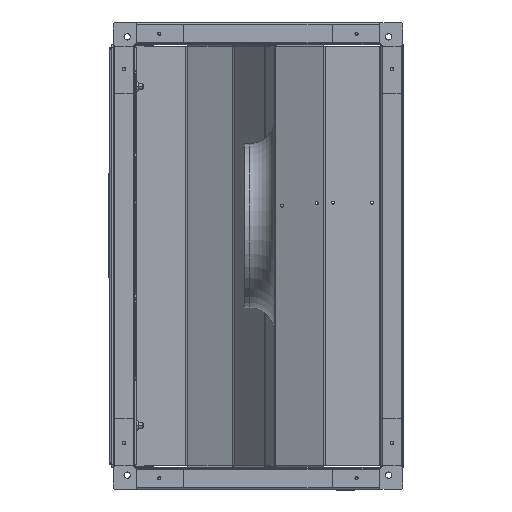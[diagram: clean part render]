
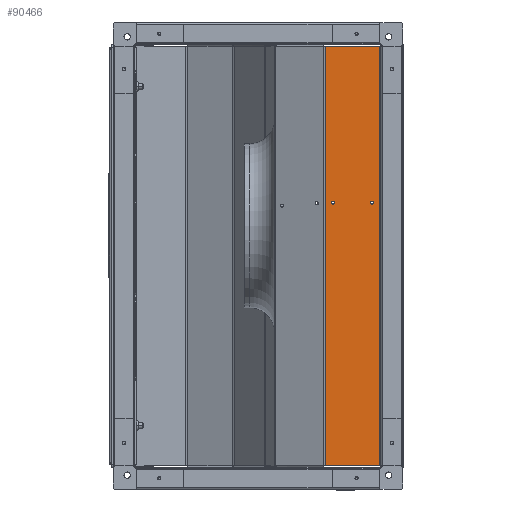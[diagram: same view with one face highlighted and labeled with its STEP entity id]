
A CAD part, left-side view. The second image highlights one B-rep face of the part: STEP entity #90466.
In plain terms, the highlighted planar face has unit normal (-1, 0, 0).
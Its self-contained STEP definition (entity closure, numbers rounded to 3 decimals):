
#2240 = CIRCLE ( 'NONE', #56960, 2.1 ) ;
#12062 = EDGE_CURVE ( 'NONE', #16818, #16738, #101062, .T. ) ;
#12212 = EDGE_CURVE ( 'NONE', #17197, #16452, #101178, .T. ) ;
#12289 = EDGE_CURVE ( 'NONE', #65517, #15921, #101350, .T. ) ;
#12806 = EDGE_CURVE ( 'NONE', #15921, #65517, #102269, .T. ) ;
#12812 = EDGE_CURVE ( 'NONE', #16452, #16800, #102316, .T. ) ;
#15921 = VERTEX_POINT ( 'NONE', #51687 ) ;
#16452 = VERTEX_POINT ( 'NONE', #51323 ) ;
#16738 = VERTEX_POINT ( 'NONE', #112870 ) ;
#16800 = VERTEX_POINT ( 'NONE', #112763 ) ;
#16818 = VERTEX_POINT ( 'NONE', #112728 ) ;
#16822 = VERTEX_POINT ( 'NONE', #112720 ) ;
#17197 = VERTEX_POINT ( 'NONE', #113374 ) ;
#32061 = EDGE_CURVE ( 'NONE', #16822, #17197, #82581, .T. ) ;
#32451 = EDGE_CURVE ( 'NONE', #16800, #16822, #83071, .T. ) ;
#51323 = CARTESIAN_POINT ( 'NONE',  ( -293.5, 3.3, 296.7 ) ) ;
#51687 = CARTESIAN_POINT ( 'NONE',  ( -293.5, 11.7, 75.428 ) ) ;
#56960 = AXIS2_PLACEMENT_3D ( 'NONE', #91845, #91847, #91849 ) ;
#62019 = CARTESIAN_POINT ( 'NONE',  ( -293.5, 15.9, 75.428 ) ) ;
#65517 = VERTEX_POINT ( 'NONE', #62019 ) ;
#66590 = CARTESIAN_POINT ( 'NONE',  ( -293.5, 80.289, -296.7 ) ) ;
#66593 = DIRECTION ( 'NONE',  ( 0., -1., 0. ) ) ;
#67548 = CARTESIAN_POINT ( 'NONE',  ( -293.5, 79.859, 299. ) ) ;
#67551 = DIRECTION ( 'NONE',  ( 0., 0., -1. ) ) ;
#71394 = EDGE_CURVE ( 'NONE', #16738, #16818, #2240, .T. ) ;
#72028 = FACE_BOUND ( 'NONE', #79261, .T. ) ;
#72030 = FACE_OUTER_BOUND ( 'NONE', #79217, .T. ) ;
#72035 = FACE_BOUND ( 'NONE', #79389, .T. ) ;
#79217 = EDGE_LOOP ( 'NONE', ( #116927, #116825, #116922, #116826 ) ) ;
#79261 = EDGE_LOOP ( 'NONE', ( #116898, #116900 ) ) ;
#79389 = EDGE_LOOP ( 'NONE', ( #116904, #116899 ) ) ;
#81496 = DIRECTION ( 'NONE',  ( -1., 0., 0. ) ) ;
#81513 = DIRECTION ( 'NONE',  ( 0., 0., 1. ) ) ;
#81520 = DIRECTION ( 'NONE',  ( 0., -1., 0. ) ) ;
#81662 = CARTESIAN_POINT ( 'NONE',  ( -293.5, 13.8, 75.428 ) ) ;
#81663 = CARTESIAN_POINT ( 'NONE',  ( -293.5, 3.3, -297.293 ) ) ;
#81734 = CARTESIAN_POINT ( 'NONE',  ( -293.5, 68.8, 75.428 ) ) ;
#81940 = DIRECTION ( 'NONE',  ( 0., -1., 0. ) ) ;
#81948 = DIRECTION ( 'NONE',  ( -1., 0., 0. ) ) ;
#82581 = LINE ( 'NONE', #66590, #82584 ) ;
#82584 = VECTOR ( 'NONE', #66593, 1000. ) ;
#83071 = LINE ( 'NONE', #67548, #83076 ) ;
#83076 = VECTOR ( 'NONE', #67551, 1000. ) ;
#84132 = CARTESIAN_POINT ( 'NONE',  ( -293.5, 1., 299. ) ) ;
#84147 = PLANE ( 'NONE',  #102218 ) ;
#84150 = DIRECTION ( 'NONE',  ( -1., 0., 0. ) ) ;
#84154 = DIRECTION ( 'NONE',  ( 0., -1., 0. ) ) ;
#87870 = AXIS2_PLACEMENT_3D ( 'NONE', #81734, #81948, #81940 ) ;
#87889 = AXIS2_PLACEMENT_3D ( 'NONE', #81662, #81496, #81520 ) ;
#87898 = AXIS2_PLACEMENT_3D ( 'NONE', #117544, #117538, #117536 ) ;
#90466 = ADVANCED_FACE ( 'NONE', ( #72035, #72028, #72030 ), #84147, .T. ) ;
#91845 = CARTESIAN_POINT ( 'NONE',  ( -293.5, 68.8, 75.428 ) ) ;
#91847 = DIRECTION ( 'NONE',  ( -1., 0., 0. ) ) ;
#91849 = DIRECTION ( 'NONE',  ( 0., -1., 0. ) ) ;
#101062 = CIRCLE ( 'NONE', #87870, 2.1 ) ;
#101178 = LINE ( 'NONE', #81663, #101186 ) ;
#101186 = VECTOR ( 'NONE', #81513, 1000. ) ;
#101350 = CIRCLE ( 'NONE', #87889, 2.1 ) ;
#102218 = AXIS2_PLACEMENT_3D ( 'NONE', #84132, #84150, #84154 ) ;
#102269 = CIRCLE ( 'NONE', #87898, 2.1 ) ;
#102316 = LINE ( 'NONE', #117566, #102319 ) ;
#102319 = VECTOR ( 'NONE', #117499, 1000. ) ;
#112720 = CARTESIAN_POINT ( 'NONE',  ( -293.5, 79.859, -296.7 ) ) ;
#112728 = CARTESIAN_POINT ( 'NONE',  ( -293.5, 66.7, 75.428 ) ) ;
#112763 = CARTESIAN_POINT ( 'NONE',  ( -293.5, 79.859, 296.7 ) ) ;
#112870 = CARTESIAN_POINT ( 'NONE',  ( -293.5, 70.9, 75.428 ) ) ;
#113374 = CARTESIAN_POINT ( 'NONE',  ( -293.5, 3.3, -296.7 ) ) ;
#116825 = ORIENTED_EDGE ( 'NONE', *, *, #12212, .T. ) ;
#116826 = ORIENTED_EDGE ( 'NONE', *, *, #32451, .T. ) ;
#116898 = ORIENTED_EDGE ( 'NONE', *, *, #12062, .F. ) ;
#116899 = ORIENTED_EDGE ( 'NONE', *, *, #12289, .F. ) ;
#116900 = ORIENTED_EDGE ( 'NONE', *, *, #71394, .F. ) ;
#116904 = ORIENTED_EDGE ( 'NONE', *, *, #12806, .F. ) ;
#116922 = ORIENTED_EDGE ( 'NONE', *, *, #12812, .T. ) ;
#116927 = ORIENTED_EDGE ( 'NONE', *, *, #32061, .T. ) ;
#117499 = DIRECTION ( 'NONE',  ( 0., 1., 0. ) ) ;
#117536 = DIRECTION ( 'NONE',  ( 0., -1., 0. ) ) ;
#117538 = DIRECTION ( 'NONE',  ( -1., 0., 0. ) ) ;
#117544 = CARTESIAN_POINT ( 'NONE',  ( -293.5, 13.8, 75.428 ) ) ;
#117566 = CARTESIAN_POINT ( 'NONE',  ( -293.5, 2.707, 296.7 ) ) ;
